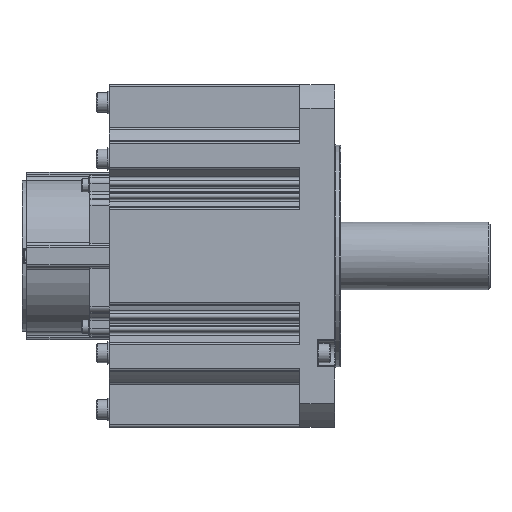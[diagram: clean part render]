
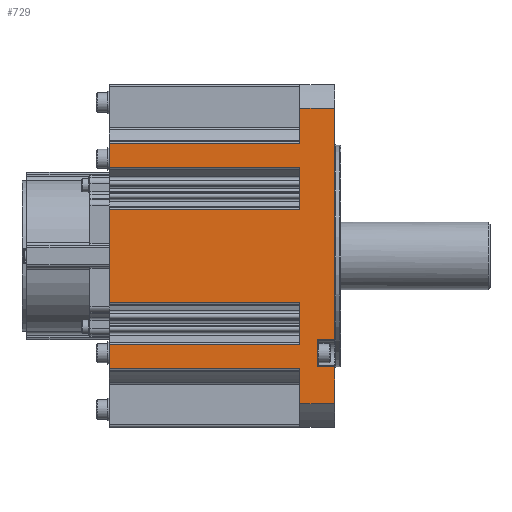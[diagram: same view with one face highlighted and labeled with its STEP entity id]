
A CAD part, front view. The second image highlights one B-rep face of the part: STEP entity #729.
In plain terms, the highlighted planar face has unit normal (0, -1, 0).
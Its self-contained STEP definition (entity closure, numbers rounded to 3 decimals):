
#729 = ADVANCED_FACE( '', ( #2027 ), #2028, .T. );
#2027 = FACE_OUTER_BOUND( '', #4025, .T. );
#2028 = PLANE( '', #4026 );
#4025 = EDGE_LOOP( '', ( #6444, #6445, #6446, #6447, #6448, #6449, #6450, #6451, #6452, #6453, #6454, #6455, #6456, #6457, #6458, #6459, #6460, #6461, #6462, #6463 ) );
#4026 = AXIS2_PLACEMENT_3D( '', #6464, #6465, #6466 );
#6444 = ORIENTED_EDGE( '', *, *, #11780, .T. );
#6445 = ORIENTED_EDGE( '', *, *, #11781, .F. );
#6446 = ORIENTED_EDGE( '', *, *, #11782, .F. );
#6447 = ORIENTED_EDGE( '', *, *, #11783, .T. );
#6448 = ORIENTED_EDGE( '', *, *, #11784, .T. );
#6449 = ORIENTED_EDGE( '', *, *, #11785, .F. );
#6450 = ORIENTED_EDGE( '', *, *, #11786, .F. );
#6451 = ORIENTED_EDGE( '', *, *, #11787, .F. );
#6452 = ORIENTED_EDGE( '', *, *, #11788, .T. );
#6453 = ORIENTED_EDGE( '', *, *, #11768, .T. );
#6454 = ORIENTED_EDGE( '', *, *, #11789, .F. );
#6455 = ORIENTED_EDGE( '', *, *, #11790, .F. );
#6456 = ORIENTED_EDGE( '', *, *, #11791, .T. );
#6457 = ORIENTED_EDGE( '', *, *, #11751, .T. );
#6458 = ORIENTED_EDGE( '', *, *, #11792, .F. );
#6459 = ORIENTED_EDGE( '', *, *, #11793, .F. );
#6460 = ORIENTED_EDGE( '', *, *, #11794, .T. );
#6461 = ORIENTED_EDGE( '', *, *, #11734, .T. );
#6462 = ORIENTED_EDGE( '', *, *, #11795, .F. );
#6463 = ORIENTED_EDGE( '', *, *, #11796, .F. );
#6464 = CARTESIAN_POINT( '', ( -116., -88.3, 75.996 ) );
#6465 = DIRECTION( '', ( 0., -1., 0. ) );
#6466 = DIRECTION( '', ( 0., 0., -1. ) );
#11734 = EDGE_CURVE( '', #14194, #14192, #14195, .T. );
#11751 = EDGE_CURVE( '', #14227, #14225, #14228, .T. );
#11768 = EDGE_CURVE( '', #14260, #14258, #14261, .T. );
#11780 = EDGE_CURVE( '', #14279, #14280, #14281, .T. );
#11781 = EDGE_CURVE( '', #14282, #14280, #14283, .T. );
#11782 = EDGE_CURVE( '', #14284, #14282, #14285, .T. );
#11783 = EDGE_CURVE( '', #14284, #14286, #14287, .T. );
#11784 = EDGE_CURVE( '', #14286, #14288, #14289, .T. );
#11785 = EDGE_CURVE( '', #14290, #14288, #14291, .T. );
#11786 = EDGE_CURVE( '', #14292, #14290, #14293, .T. );
#11787 = EDGE_CURVE( '', #14294, #14292, #14295, .T. );
#11788 = EDGE_CURVE( '', #14294, #14260, #14296, .T. );
#11789 = EDGE_CURVE( '', #14297, #14258, #14298, .T. );
#11790 = EDGE_CURVE( '', #14299, #14297, #14300, .T. );
#11791 = EDGE_CURVE( '', #14299, #14227, #14301, .T. );
#11792 = EDGE_CURVE( '', #14302, #14225, #14303, .T. );
#11793 = EDGE_CURVE( '', #14304, #14302, #14305, .T. );
#11794 = EDGE_CURVE( '', #14304, #14194, #14306, .T. );
#11795 = EDGE_CURVE( '', #14307, #14192, #14308, .T. );
#11796 = EDGE_CURVE( '', #14279, #14307, #14309, .T. );
#14192 = VERTEX_POINT( '', #17534 );
#14194 = VERTEX_POINT( '', #17536 );
#14195 = LINE( '', #17537, #17538 );
#14225 = VERTEX_POINT( '', #17573 );
#14227 = VERTEX_POINT( '', #17575 );
#14228 = LINE( '', #17576, #17577 );
#14258 = VERTEX_POINT( '', #17613 );
#14260 = VERTEX_POINT( '', #17615 );
#14261 = LINE( '', #17616, #17617 );
#14279 = VERTEX_POINT( '', #17639 );
#14280 = VERTEX_POINT( '', #17640 );
#14281 = LINE( '', #17641, #17642 );
#14282 = VERTEX_POINT( '', #17643 );
#14283 = LINE( '', #17644, #17645 );
#14284 = VERTEX_POINT( '', #17646 );
#14285 = LINE( '', #17647, #17648 );
#14286 = VERTEX_POINT( '', #17649 );
#14287 = LINE( '', #17650, #17651 );
#14288 = VERTEX_POINT( '', #17652 );
#14289 = LINE( '', #17653, #17654 );
#14290 = VERTEX_POINT( '', #17655 );
#14291 = LINE( '', #17656, #17657 );
#14292 = VERTEX_POINT( '', #17658 );
#14293 = LINE( '', #17659, #17660 );
#14294 = VERTEX_POINT( '', #17661 );
#14295 = LINE( '', #17662, #17663 );
#14296 = LINE( '', #17664, #17665 );
#14297 = VERTEX_POINT( '', #17666 );
#14298 = LINE( '', #17667, #17668 );
#14299 = VERTEX_POINT( '', #17669 );
#14300 = LINE( '', #17670, #17671 );
#14301 = LINE( '', #17672, #17673 );
#14302 = VERTEX_POINT( '', #17674 );
#14303 = LINE( '', #17675, #17676 );
#14304 = VERTEX_POINT( '', #17677 );
#14305 = LINE( '', #17678, #17679 );
#14306 = LINE( '', #17680, #17681 );
#14307 = VERTEX_POINT( '', #17682 );
#14308 = LINE( '', #17683, #17684 );
#14309 = LINE( '', #17685, #17686 );
#17534 = CARTESIAN_POINT( '', ( -116., -88.3, -58. ) );
#17536 = CARTESIAN_POINT( '', ( -116., -88.3, -45.577 ) );
#17537 = CARTESIAN_POINT( '', ( -116., -88.3, 75.996 ) );
#17538 = VECTOR( '', #21701, 1000. );
#17573 = CARTESIAN_POINT( '', ( -116., -88.3, -24. ) );
#17575 = CARTESIAN_POINT( '', ( -116., -88.3, 24. ) );
#17576 = CARTESIAN_POINT( '', ( -116., -88.3, 75.996 ) );
#17577 = VECTOR( '', #21740, 1000. );
#17613 = CARTESIAN_POINT( '', ( -116., -88.3, 45.577 ) );
#17615 = CARTESIAN_POINT( '', ( -116., -88.3, 58. ) );
#17616 = CARTESIAN_POINT( '', ( -116., -88.3, 75.996 ) );
#17617 = VECTOR( '', #21777, 1000. );
#17639 = CARTESIAN_POINT( '', ( -18., -88.3, -75.996 ) );
#17640 = CARTESIAN_POINT( '', ( 0., -88.3, -75.996 ) );
#17641 = CARTESIAN_POINT( '', ( -116., -88.3, -75.996 ) );
#17642 = VECTOR( '', #21797, 1000. );
#17643 = CARTESIAN_POINT( '', ( 0., -88.3, -57. ) );
#17644 = CARTESIAN_POINT( '', ( 0., -88.3, 75.996 ) );
#17645 = VECTOR( '', #21798, 1000. );
#17646 = CARTESIAN_POINT( '', ( -9., -88.3, -57. ) );
#17647 = CARTESIAN_POINT( '', ( -9., -88.3, -57. ) );
#17648 = VECTOR( '', #21799, 1000. );
#17649 = CARTESIAN_POINT( '', ( -9., -88.3, -43. ) );
#17650 = CARTESIAN_POINT( '', ( -9., -88.3, 75.996 ) );
#17651 = VECTOR( '', #21800, 1000. );
#17652 = CARTESIAN_POINT( '', ( 0., -88.3, -43. ) );
#17653 = CARTESIAN_POINT( '', ( -9., -88.3, -43. ) );
#17654 = VECTOR( '', #21801, 1000. );
#17655 = CARTESIAN_POINT( '', ( 0., -88.3, 75.996 ) );
#17656 = CARTESIAN_POINT( '', ( 0., -88.3, 75.996 ) );
#17657 = VECTOR( '', #21802, 1000. );
#17658 = CARTESIAN_POINT( '', ( -18., -88.3, 75.996 ) );
#17659 = CARTESIAN_POINT( '', ( -116., -88.3, 75.996 ) );
#17660 = VECTOR( '', #21803, 1000. );
#17661 = CARTESIAN_POINT( '', ( -18., -88.3, 58. ) );
#17662 = CARTESIAN_POINT( '', ( -18., -88.3, 75.996 ) );
#17663 = VECTOR( '', #21804, 1000. );
#17664 = CARTESIAN_POINT( '', ( -18., -88.3, 58. ) );
#17665 = VECTOR( '', #21805, 1000. );
#17666 = CARTESIAN_POINT( '', ( -18., -88.3, 45.577 ) );
#17667 = CARTESIAN_POINT( '', ( -18., -88.3, 45.577 ) );
#17668 = VECTOR( '', #21806, 1000. );
#17669 = CARTESIAN_POINT( '', ( -18., -88.3, 24. ) );
#17670 = CARTESIAN_POINT( '', ( -18., -88.3, 75.996 ) );
#17671 = VECTOR( '', #21807, 1000. );
#17672 = CARTESIAN_POINT( '', ( -18., -88.3, 24. ) );
#17673 = VECTOR( '', #21808, 1000. );
#17674 = CARTESIAN_POINT( '', ( -18., -88.3, -24. ) );
#17675 = CARTESIAN_POINT( '', ( -18., -88.3, -24. ) );
#17676 = VECTOR( '', #21809, 1000. );
#17677 = CARTESIAN_POINT( '', ( -18., -88.3, -45.577 ) );
#17678 = CARTESIAN_POINT( '', ( -18., -88.3, 75.996 ) );
#17679 = VECTOR( '', #21810, 1000. );
#17680 = CARTESIAN_POINT( '', ( -18., -88.3, -45.577 ) );
#17681 = VECTOR( '', #21811, 1000. );
#17682 = CARTESIAN_POINT( '', ( -18., -88.3, -58. ) );
#17683 = CARTESIAN_POINT( '', ( -18., -88.3, -58. ) );
#17684 = VECTOR( '', #21812, 1000. );
#17685 = CARTESIAN_POINT( '', ( -18., -88.3, 75.996 ) );
#17686 = VECTOR( '', #21813, 1000. );
#21701 = DIRECTION( '', ( 0., 0., -1. ) );
#21740 = DIRECTION( '', ( 0., 0., -1. ) );
#21777 = DIRECTION( '', ( 0., 0., -1. ) );
#21797 = DIRECTION( '', ( 1., 0., 0. ) );
#21798 = DIRECTION( '', ( 0., 0., -1. ) );
#21799 = DIRECTION( '', ( 1., 0., 0. ) );
#21800 = DIRECTION( '', ( 0., 0., 1. ) );
#21801 = DIRECTION( '', ( 1., 0., 0. ) );
#21802 = DIRECTION( '', ( 0., 0., -1. ) );
#21803 = DIRECTION( '', ( 1., 0., 0. ) );
#21804 = DIRECTION( '', ( 0., 0., 1. ) );
#21805 = DIRECTION( '', ( -1., 0., 0. ) );
#21806 = DIRECTION( '', ( -1., 0., 0. ) );
#21807 = DIRECTION( '', ( 0., 0., 1. ) );
#21808 = DIRECTION( '', ( -1., 0., 0. ) );
#21809 = DIRECTION( '', ( -1., 0., 0. ) );
#21810 = DIRECTION( '', ( 0., 0., 1. ) );
#21811 = DIRECTION( '', ( -1., 0., 0. ) );
#21812 = DIRECTION( '', ( -1., 0., 0. ) );
#21813 = DIRECTION( '', ( 0., 0., 1. ) );
